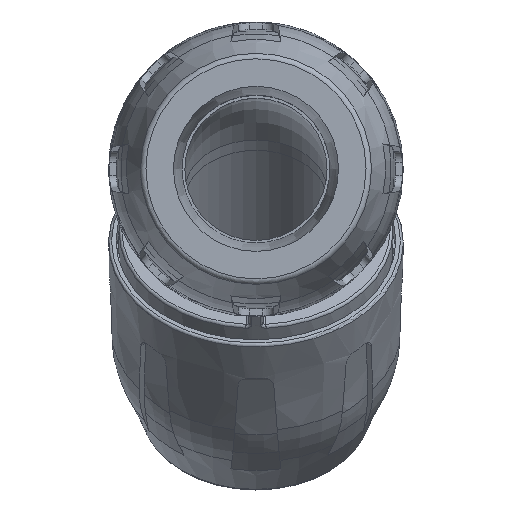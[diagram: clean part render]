
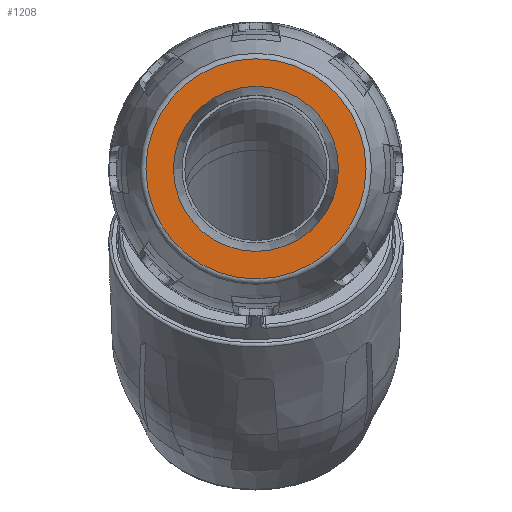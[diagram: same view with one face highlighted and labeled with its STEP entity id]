
A CAD part, top view. The second image highlights one B-rep face of the part: STEP entity #1208.
In plain terms, the highlighted planar face has unit normal (0, 0, 1).
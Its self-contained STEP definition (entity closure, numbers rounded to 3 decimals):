
#1208 = ADVANCED_FACE( '', ( #2599, #2600 ), #2601, .F. );
#2599 = FACE_BOUND( '', #7506, .T. );
#2600 = FACE_OUTER_BOUND( '', #7507, .T. );
#2601 = PLANE( '', #7508 );
#7506 = EDGE_LOOP( '', ( #11383 ) );
#7507 = EDGE_LOOP( '', ( #11384 ) );
#7508 = AXIS2_PLACEMENT_3D( '', #11385, #11386, #11387 );
#11383 = ORIENTED_EDGE( '', *, *, #14247, .F. );
#11384 = ORIENTED_EDGE( '', *, *, #13604, .F. );
#11385 = CARTESIAN_POINT( '', ( -19.827, 0., 16.771 ) );
#11386 = DIRECTION( '', ( 0., 0., -1. ) );
#11387 = DIRECTION( '', ( -1., 0., 0. ) );
#13604 = EDGE_CURVE( '', #15941, #15941, #15942, .F. );
#14247 = EDGE_CURVE( '', #16815, #16815, #16816, .T. );
#15941 = VERTEX_POINT( '', #20590 );
#15942 = CIRCLE( '', #20591, 19.114 );
#16815 = VERTEX_POINT( '', #22803 );
#16816 = CIRCLE( '', #22804, 14.331 );
#20590 = CARTESIAN_POINT( '', ( -19.114, 0., 16.771 ) );
#20591 = AXIS2_PLACEMENT_3D( '', #24679, #24680, #24681 );
#22803 = CARTESIAN_POINT( '', ( -14.331, 0., 16.771 ) );
#22804 = AXIS2_PLACEMENT_3D( '', #25305, #25306, #25307 );
#24679 = CARTESIAN_POINT( '', ( 0., 0., 16.771 ) );
#24680 = DIRECTION( '', ( 0., 0., 1. ) );
#24681 = DIRECTION( '', ( -1., 0., 0. ) );
#25305 = CARTESIAN_POINT( '', ( 0., 0., 16.771 ) );
#25306 = DIRECTION( '', ( 0., 0., 1. ) );
#25307 = DIRECTION( '', ( -1., 0., 0. ) );
